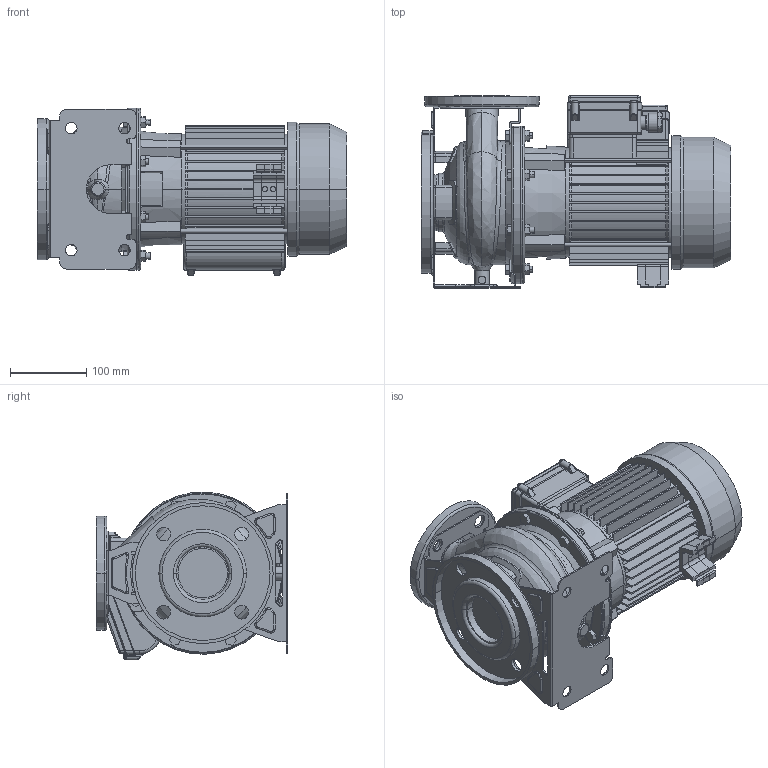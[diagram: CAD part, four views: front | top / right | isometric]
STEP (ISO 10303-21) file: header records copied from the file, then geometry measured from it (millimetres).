
FILE_DESCRIPTION((''),'2;1');
FILE_NAME('3M_40-125_1_5_M_ASM','2016-09-16T',('rosa'),('"Ebara Pumps Europe +39.444.706811"'),'PRO/ENGINEER BY PARAMETRIC TECHNOLOGY CORPORATION, 2012130','PRO/ENGINEER BY PARAMETRIC TECHNOLOGY CORPORATION, 2012130','');
FILE_SCHEMA(('AUTOMOTIVE_DESIGN { 1 0 10303 214 1 1 1 1 }'));
Length unit declared in the file: millimetre
Products named in the file (12): CORPO_40-125_AF0; ASP_40-125; FLANGIA_DIN_65; MAND_40-125; FLANGIA_DIN_40; BASE_3M_40-125; CORPO_SALDATO_40-125_ASM; SUPPORTO_3M_160_90; MEC_90X100_M; SOSTEGNO_72009; COPRIMORSETTIERA_MEC80_90_M; 3M_40-125_1_5_M_ASM
Assembly tree (12 placements, depth 3):
  3M_40-125_1_5_M_ASM
    CORPO_SALDATO_40-125_ASM
      CORPO_40-125_AF0
      ASP_40-125
      FLANGIA_DIN_65
      MAND_40-125
      FLANGIA_DIN_40
      BASE_3M_40-125
    SUPPORTO_3M_160_90
    MEC_90X100_M
    SOSTEGNO_72009  x2
    COPRIMORSETTIERA_MEC80_90_M
Bounding box: 407 x 252 x 220.48 mm (x, y, z)
Volume: 7030817.7 mm3; surface area: 941772.2 mm2
Topology: 14 solids, 14 shells, 1305 faces, 3288 edges, 2063 vertices
Faces by surface type: plane 602, cylinder 436, cone 98, torus 85, bspline 76, sphere 8
Entity records: 55417 total; most frequent: CARTESIAN_POINT 12833, DIRECTION 6462, ORIENTED_EDGE 6392, PRESENTATION_STYLE_ASSIGNMENT 3209, STYLED_ITEM 3209, CURVE_STYLE 3196, EDGE_CURVE 3196, AXIS2_PLACEMENT_3D 2406
